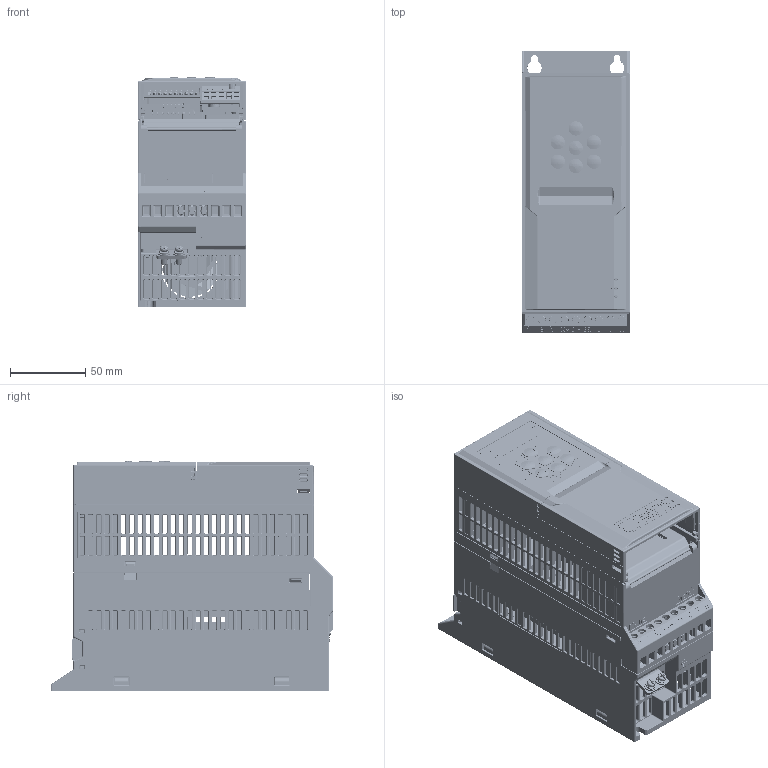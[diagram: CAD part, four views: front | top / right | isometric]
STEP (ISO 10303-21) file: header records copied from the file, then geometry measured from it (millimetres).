
FILE_DESCRIPTION((''),'2;1');
FILE_NAME('AD800-D1-DRIVE_ASM','2025-06-23T12:00:57',('wendong.luo'),(''),'CREO PARAMETRIC BY PTC INC, 2024374','CREO PARAMETRIC BY PTC INC, 2024374','');
FILE_SCHEMA(('CONFIG_CONTROL_DESIGN','GEOMETRIC_VALIDATION_PROPERTIES_MIM'));
Products named in the file (21): D1_MECHANICAL_PART; E0400127; E0400012; LED-90_HMD0; M0202003; D1-PU_ASM; M0104033; E0100084; E0400023; E0400008; E0400009; E0400001; E0400011; E0100084_ASM; M0203006; M0203025; M0203032_00; M0104034; M0203053; CU_NEW_ASM; AD800-D1-DRIVE_ASM
Assembly tree (23 placements, depth 4):
  AD800-D1-DRIVE_ASM
    D1-PU_ASM
      D1_MECHANICAL_PART
      E0400127
      E0400012
      LED-90_HMD0  x2
      M0202003  x2
    CU_NEW_ASM
      M0104033
      E0100084_ASM
        E0100084
        E0400023
        E0400008
        E0400009  x2
        E0400001
        E0400011
      M0203006
      M0203025
      M0203032_00
      M0104034
      M0203053
Bounding box: 72.3 x 188 x 152.85 mm (x, y, z)
Volume: 431691.7 mm3; surface area: 421714.3 mm2
Topology: 23 solids, 45 shells, 17836 faces, 46967 edges, 29995 vertices
Faces by surface type: plane 8495, cylinder 3458, bspline 2596, extrusion 2001, cone 748, torus 444, sphere 94
Entity records: 791727 total; most frequent: CARTESIAN_POINT 244240, ORIENTED_EDGE 88706, DIRECTION 66040, PRESENTATION_STYLE_ASSIGNMENT 45023, EDGE_CURVE 44365, STYLED_ITEM 43182, CURVE_STYLE 42456, VERTEX_POINT 28322
